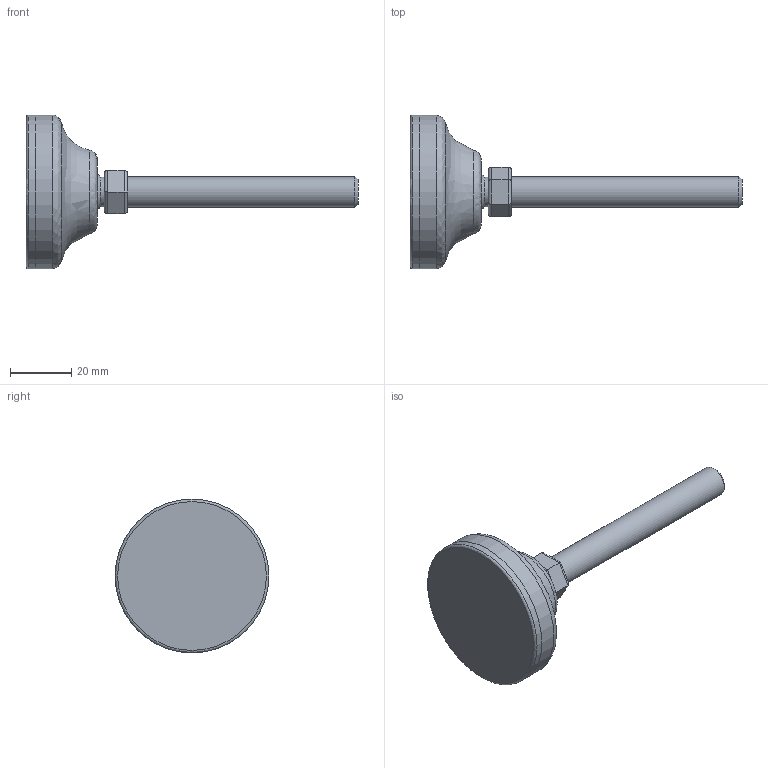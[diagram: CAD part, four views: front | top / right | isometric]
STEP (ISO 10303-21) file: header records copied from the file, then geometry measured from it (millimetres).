
FILE_DESCRIPTION(('STEP AP203'),'2;1');
FILE_NAME('10243.stp','2015-04-17T14:40:09',(''),(''),'2008.1.107','THINKDESIGN','');
FILE_SCHEMA(('CONFIG_CONTROL_DESIGN'));
Length unit declared in the file: millimetre
Bounding box: 108 x 50 x 50 mm (x, y, z)
Volume: 38711.2 mm3; surface area: 13084.9 mm2
Topology: 3 solids, 3 shells, 36 faces, 80 edges, 52 vertices
Faces by surface type: cylinder 16, plane 14, bspline 6
Full cylindrical faces by diameter (mm): 9.747 x1, 10 x1, 50 x2
Entity records: 1559 total; most frequent: CARTESIAN_POINT 679, DIRECTION 161, ORIENTED_EDGE 160, EDGE_CURVE 80, AXIS2_PLACEMENT_3D 63, VERTEX_POINT 52, EDGE_LOOP 38, FACE_OUTER_BOUND 36
